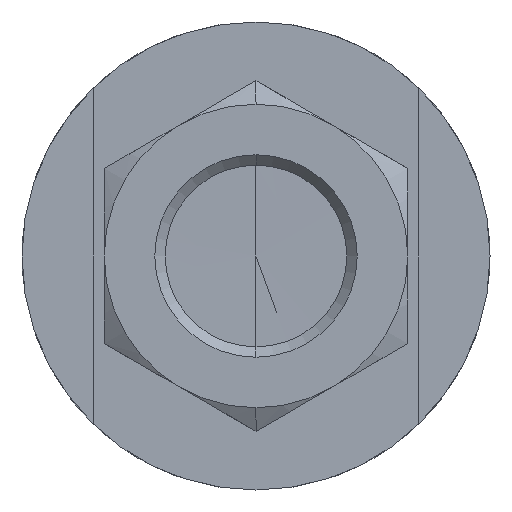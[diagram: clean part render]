
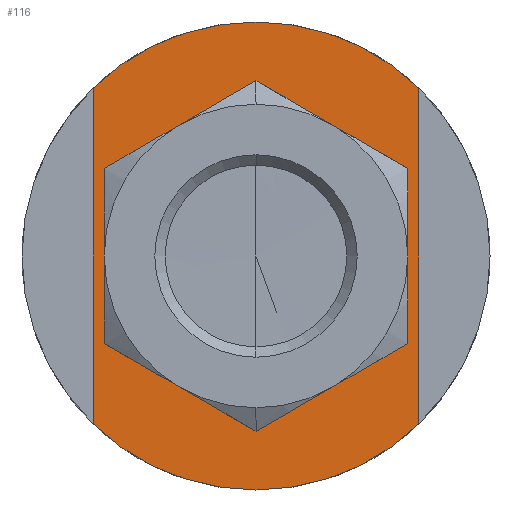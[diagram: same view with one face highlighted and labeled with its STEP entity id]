
A CAD part, left-side view. The second image highlights one B-rep face of the part: STEP entity #116.
In plain terms, the highlighted planar face has unit normal (-1, 0, 0).
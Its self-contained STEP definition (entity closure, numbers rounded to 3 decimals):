
#116=ADVANCED_FACE('',(#241,#242),#243,.T.);
#241=FACE_BOUND('',#419,.T.);
#242=FACE_OUTER_BOUND('',#420,.T.);
#243=PLANE('',#421);
#419=EDGE_LOOP('',(#809,#810));
#420=EDGE_LOOP('',(#811,#812,#813,#814,#815,#816));
#421=AXIS2_PLACEMENT_3D('',#817,#818,#819);
#809=ORIENTED_EDGE('',*,*,#1108,.F.);
#810=ORIENTED_EDGE('',*,*,#1232,.F.);
#811=ORIENTED_EDGE('',*,*,#1231,.T.);
#812=ORIENTED_EDGE('',*,*,#1116,.T.);
#813=ORIENTED_EDGE('',*,*,#1233,.T.);
#814=ORIENTED_EDGE('',*,*,#1234,.T.);
#815=ORIENTED_EDGE('',*,*,#1235,.T.);
#816=ORIENTED_EDGE('',*,*,#1120,.T.);
#817=CARTESIAN_POINT('',(18.598,0.,-14.233));
#818=DIRECTION('',(-1.0,0.,0.));
#819=DIRECTION('',(0.,0.0,-1.0));
#1108=EDGE_CURVE('',#1285,#1287,#1288,.T.);
#1116=EDGE_CURVE('',#1303,#1301,#1304,.T.);
#1120=EDGE_CURVE('',#1297,#1309,#1311,.T.);
#1231=EDGE_CURVE('',#1309,#1303,#1508,.T.);
#1232=EDGE_CURVE('',#1287,#1285,#1509,.T.);
#1233=EDGE_CURVE('',#1301,#1510,#1511,.T.);
#1234=EDGE_CURVE('',#1510,#1512,#1513,.T.);
#1235=EDGE_CURVE('',#1512,#1297,#1514,.T.);
#1285=VERTEX_POINT('',#1570);
#1287=VERTEX_POINT('',#1573);
#1288=CIRCLE('',#1574,9.965);
#1297=VERTEX_POINT('',#1619);
#1301=VERTEX_POINT('',#1624);
#1303=VERTEX_POINT('',#1627);
#1304=CIRCLE('',#1628,18.5);
#1309=VERTEX_POINT('',#1634);
#1311=CIRCLE('',#1637,18.5);
#1508=LINE('',#2210,#2211);
#1509=CIRCLE('',#2212,9.965);
#1510=VERTEX_POINT('',#2213);
#1511=CIRCLE('',#2214,18.5);
#1512=VERTEX_POINT('',#2215);
#1513=LINE('',#2216,#2217);
#1514=CIRCLE('',#2218,18.5);
#1570=CARTESIAN_POINT('',(18.598,0.,-9.965));
#1573=CARTESIAN_POINT('',(18.598,0.,9.965));
#1574=AXIS2_PLACEMENT_3D('',#2308,#2309,#2310);
#1619=CARTESIAN_POINT('',(18.598,0.,-18.5));
#1624=CARTESIAN_POINT('',(18.598,0.,18.5));
#1627=CARTESIAN_POINT('',(18.598,-12.875,13.285));
#1628=AXIS2_PLACEMENT_3D('',#2317,#2318,#2319);
#1634=CARTESIAN_POINT('',(18.598,-12.875,-13.285));
#1637=AXIS2_PLACEMENT_3D('',#2325,#2326,#2327);
#2210=CARTESIAN_POINT('',(18.598,-12.875,-7.116));
#2211=VECTOR('',#2483,1.0);
#2212=AXIS2_PLACEMENT_3D('',#2484,#2485,#2486);
#2213=CARTESIAN_POINT('',(18.598,12.875,13.285));
#2214=AXIS2_PLACEMENT_3D('',#2487,#2488,#2489);
#2215=CARTESIAN_POINT('',(18.598,12.875,-13.285));
#2216=CARTESIAN_POINT('',(18.598,12.875,-7.116));
#2217=VECTOR('',#2490,1.0);
#2218=AXIS2_PLACEMENT_3D('',#2491,#2492,#2493);
#2308=CARTESIAN_POINT('',(18.598,0.,0.));
#2309=DIRECTION('',(-1.0,0.,0.));
#2310=DIRECTION('',(0.,0.0,-1.0));
#2317=CARTESIAN_POINT('',(18.598,0.,0.));
#2318=DIRECTION('',(-1.0,0.,0.));
#2319=DIRECTION('',(0.,0.0,-1.0));
#2325=CARTESIAN_POINT('',(18.598,0.,0.));
#2326=DIRECTION('',(-1.0,0.,0.));
#2327=DIRECTION('',(0.,0.0,-1.0));
#2483=DIRECTION('',(0.,0.,1.0));
#2484=CARTESIAN_POINT('',(18.598,0.,0.));
#2485=DIRECTION('',(-1.0,0.,0.));
#2486=DIRECTION('',(0.,0.0,-1.0));
#2487=CARTESIAN_POINT('',(18.598,0.,0.));
#2488=DIRECTION('',(-1.0,0.,0.));
#2489=DIRECTION('',(0.,0.0,-1.0));
#2490=DIRECTION('',(0.,0.,-1.0));
#2491=CARTESIAN_POINT('',(18.598,0.,0.));
#2492=DIRECTION('',(-1.0,0.,0.));
#2493=DIRECTION('',(0.,0.0,-1.0));
